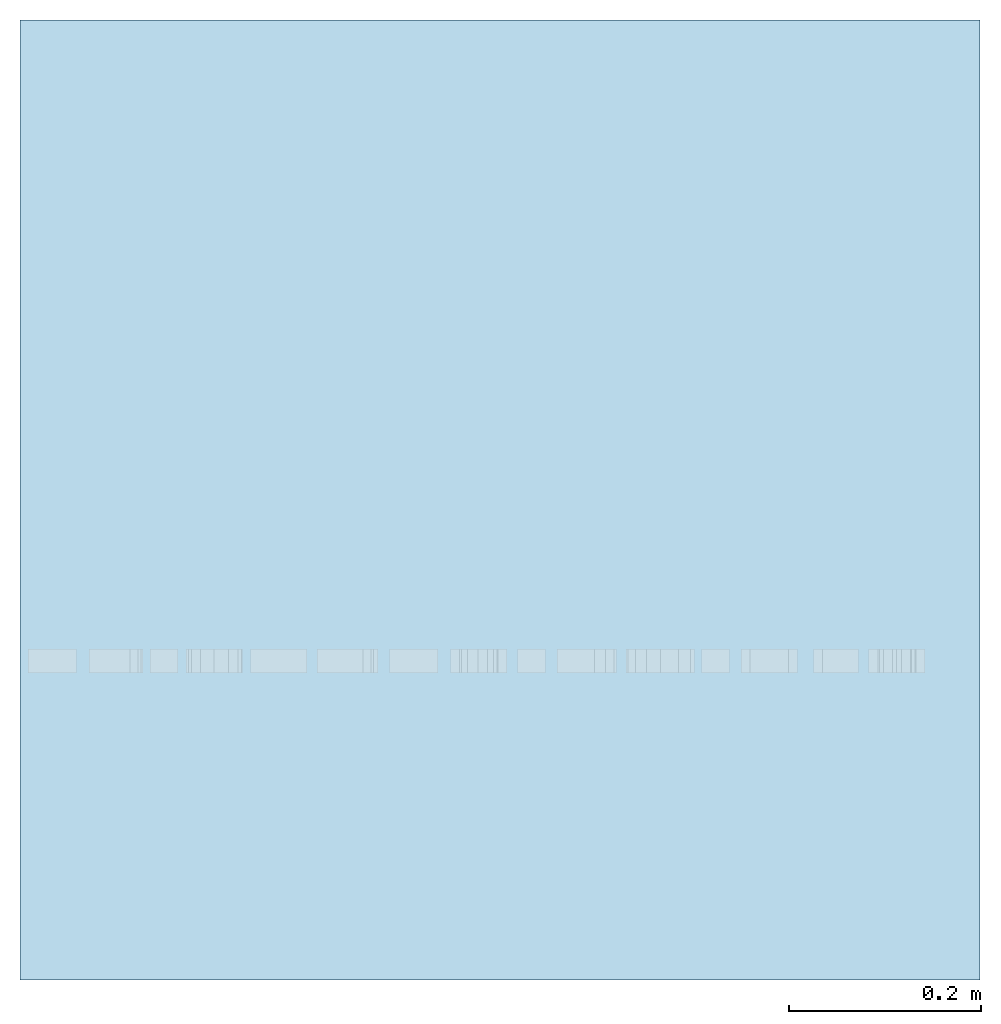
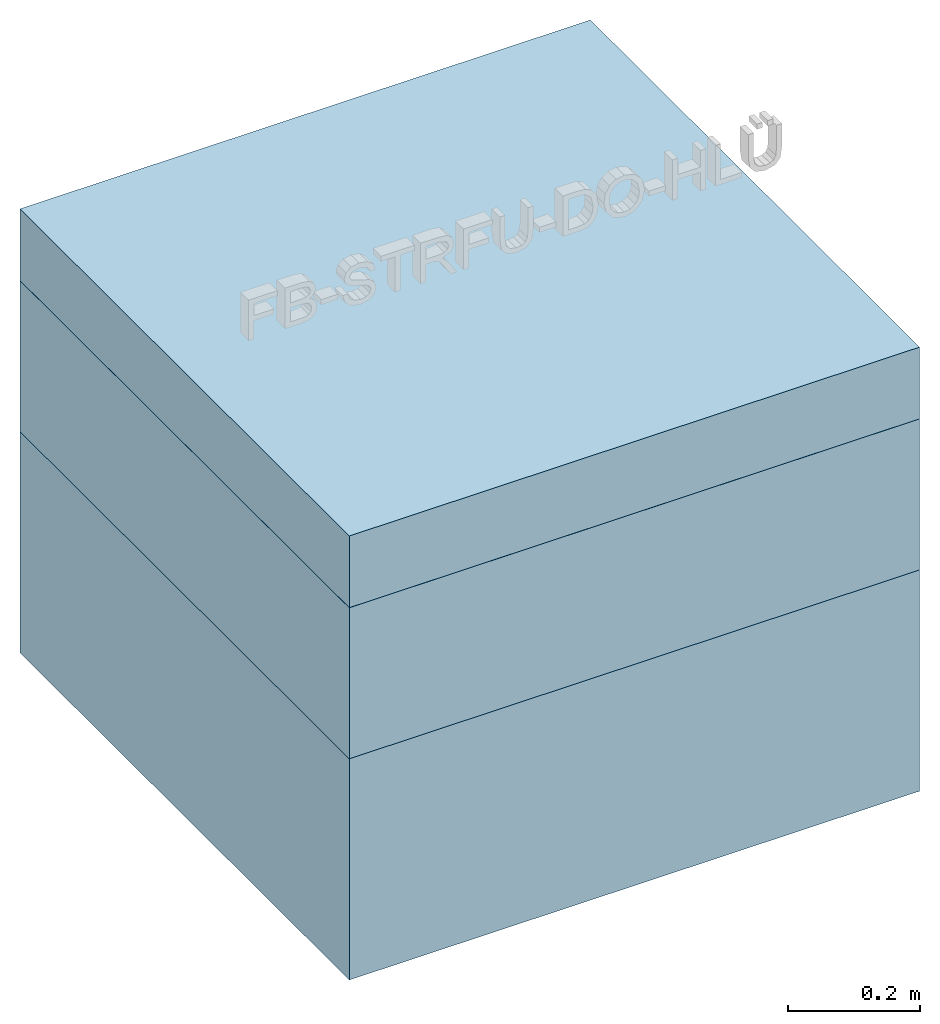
# Not in any storey, part 1 of 2: 3 slabs, 1 element without a shape of its own.
"""IFC4 model written with IfcOpenShell, lengths in metres."""

from ifc_helpers import new_model, entity, si_unit, converted_unit, derived_unit, direction, frame, origin, place, context, subcontext, project, spatial, indexed_curve, outline, extrude, material, constituent, constituent_set, type_object, element, aggregate, save


model = new_model("IFC4")

# Units and contexts
model_context = context("Model", 3, precision=1e-05, world=origin(), true_north=direction((6.123031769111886e-17, 1.0)))
body_context = subcontext(model_context, "Body", "Model", "MODEL_VIEW")
ifc_project = project(units=[si_unit("LENGTHUNIT", "METRE"), si_unit("AREAUNIT", "SQUARE_METRE"), si_unit("VOLUMEUNIT", "CUBIC_METRE"), converted_unit("PLANEANGLEUNIT", "DEGREE", entity("IfcRatioMeasure", 0.017453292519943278), si_unit("PLANEANGLEUNIT", "RADIAN"), dimensions=[0, 0, 0, 0, 0, 0, 0]), si_unit("MASSUNIT", "GRAM", prefix="KILO"), derived_unit("MASSDENSITYUNIT", [(si_unit("MASSUNIT", "GRAM", prefix="KILO"), 1), (si_unit("LENGTHUNIT", "METRE"), -3)]), derived_unit("IONCONCENTRATIONUNIT", [(si_unit("MASSUNIT", "GRAM", prefix="KILO"), 1), (si_unit("LENGTHUNIT", "METRE"), -3)]), derived_unit("MOMENTOFINERTIAUNIT", [(si_unit("LENGTHUNIT", "METRE"), 4)]), si_unit("TIMEUNIT", "SECOND"), si_unit("FREQUENCYUNIT", "HERTZ"), si_unit("THERMODYNAMICTEMPERATUREUNIT", "DEGREE_CELSIUS"), derived_unit("THERMALTRANSMITTANCEUNIT", [(si_unit("MASSUNIT", "GRAM", prefix="KILO"), 1), (si_unit("THERMODYNAMICTEMPERATUREUNIT", "KELVIN"), -1), (si_unit("TIMEUNIT", "SECOND"), -3)]), derived_unit("THERMALCONDUCTANCEUNIT", [(si_unit("MASSUNIT", "GRAM", prefix="KILO"), 1), (si_unit("THERMODYNAMICTEMPERATUREUNIT", "KELVIN"), -1), (si_unit("TIMEUNIT", "SECOND"), -3), (si_unit("LENGTHUNIT", "METRE"), 1)]), derived_unit("VOLUMETRICFLOWRATEUNIT", [(si_unit("LENGTHUNIT", "METRE"), 3), (si_unit("TIMEUNIT", "SECOND"), -1)]), derived_unit("MASSFLOWRATEUNIT", [(si_unit("MASSUNIT", "GRAM", prefix="KILO"), 1), (si_unit("TIMEUNIT", "SECOND"), -1)]), derived_unit("ROTATIONALFREQUENCYUNIT", [(si_unit("TIMEUNIT", "SECOND"), -1)]), si_unit("ELECTRICCURRENTUNIT", "AMPERE"), si_unit("ELECTRICVOLTAGEUNIT", "VOLT"), si_unit("POWERUNIT", "WATT"), si_unit("FORCEUNIT", "NEWTON", prefix="KILO"), si_unit("ILLUMINANCEUNIT", "LUX"), si_unit("LUMINOUSFLUXUNIT", "LUMEN"), si_unit("LUMINOUSINTENSITYUNIT", "CANDELA"), derived_unit("USERDEFINED", [(si_unit("MASSUNIT", "GRAM", prefix="KILO"), -1), (si_unit("LENGTHUNIT", "METRE"), -2), (si_unit("TIMEUNIT", "SECOND"), 3), (si_unit("LUMINOUSFLUXUNIT", "LUMEN"), 1)]), derived_unit("USERDEFINED", [(si_unit("MASSUNIT", "GRAM", prefix="KILO"), 1), (si_unit("TIMEUNIT", "SECOND"), -3), (si_unit("LENGTHUNIT", "METRE"), 3), (si_unit("ELECTRICCURRENTUNIT", "AMPERE"), -2)]), derived_unit("SOUNDPOWERUNIT", [(si_unit("MASSUNIT", "GRAM", prefix="KILO"), 1), (si_unit("TIMEUNIT", "SECOND"), -3), (si_unit("LENGTHUNIT", "METRE"), 2)]), derived_unit("SOUNDPRESSUREUNIT", [(si_unit("MASSUNIT", "GRAM", prefix="KILO"), 1), (si_unit("LENGTHUNIT", "METRE"), -1), (si_unit("TIMEUNIT", "SECOND"), -2)]), derived_unit("LINEARVELOCITYUNIT", [(si_unit("LENGTHUNIT", "METRE"), 1), (si_unit("TIMEUNIT", "SECOND"), -1)]), si_unit("PRESSUREUNIT", "PASCAL"), derived_unit("USERDEFINED", [(si_unit("MASSUNIT", "GRAM", prefix="KILO"), 1), (si_unit("LENGTHUNIT", "METRE"), -2), (si_unit("TIMEUNIT", "SECOND"), -2)]), derived_unit("LINEARFORCEUNIT", [(si_unit("MASSUNIT", "GRAM", prefix="KILO"), 1), (si_unit("TIMEUNIT", "SECOND"), -2)]), derived_unit("PLANARFORCEUNIT", [(si_unit("MASSUNIT", "GRAM", prefix="KILO"), 1), (si_unit("LENGTHUNIT", "METRE"), -1), (si_unit("TIMEUNIT", "SECOND"), -2)]), derived_unit("SPECIFICHEATCAPACITYUNIT", [(si_unit("THERMODYNAMICTEMPERATUREUNIT", "KELVIN"), -1), (si_unit("LENGTHUNIT", "METRE"), 2), (si_unit("TIMEUNIT", "SECOND"), -2)]), derived_unit("HEATINGVALUEUNIT", [(si_unit("LENGTHUNIT", "METRE"), 2), (si_unit("TIMEUNIT", "SECOND"), -2)]), derived_unit("VAPORPERMEABILITYUNIT", [(si_unit("LENGTHUNIT", "METRE"), -1), (si_unit("TIMEUNIT", "SECOND"), 1)]), derived_unit("DYNAMICVISCOSITYUNIT", [(si_unit("MASSUNIT", "GRAM", prefix="KILO"), 1), (si_unit("TIMEUNIT", "SECOND"), -1), (si_unit("LENGTHUNIT", "METRE"), -1)]), derived_unit("THERMALEXPANSIONCOEFFICIENTUNIT", [(si_unit("THERMODYNAMICTEMPERATUREUNIT", "KELVIN"), -1)]), derived_unit("MODULUSOFELASTICITYUNIT", [(si_unit("MASSUNIT", "GRAM", prefix="KILO"), 1), (si_unit("LENGTHUNIT", "METRE"), -1), (si_unit("TIMEUNIT", "SECOND"), -2)]), derived_unit("ISOTHERMALMOISTURECAPACITYUNIT", [(si_unit("LENGTHUNIT", "METRE"), 3), (si_unit("MASSUNIT", "GRAM", prefix="KILO"), -1)]), derived_unit("MOISTUREDIFFUSIVITYUNIT", [(si_unit("TIMEUNIT", "SECOND"), -1), (si_unit("LENGTHUNIT", "METRE"), 2)])], contexts=[model_context])

# Site
site_placement = place(None, origin())
site = spatial("IfcSite", under=ifc_project, at=site_placement, Name="Default", CompositionType="ELEMENT")

# Assembly, slabs
ifc_material_1 = material(Name="fbim_18108010_AT_015_Parkettboden")
ifc_constituent_1 = constituent(ifc_material_1, Name="fbim_18108010_AT_015_Parkettboden")
ifc_material_2 = material(Name="fbim_16053507_AT_Trockenestrich_gips", Category="Gipsputz")
ifc_constituent_2 = constituent(ifc_material_2, Name="fbim_16053507_AT_Trockenestrich_gips", Category="Gipsputz")
ifc_material_3 = material(Name="fbim_14104055_AT_040_HF-Trittschalldaemmplatte")
ifc_constituent_3 = constituent(ifc_material_3, Name="fbim_14104055_AT_040_HF-Trittschalldaemmplatte")
ifc_material_4 = material(Name="fbim_12401520_AT_OSB")
ifc_constituent_4 = constituent(ifc_material_4, Name="fbim_12401520_AT_OSB")
ifc_material_5 = material(Name="fbim_14100500_at_NTR_Zellulose-Einblasdaemmung")
ifc_constituent_5 = constituent(ifc_material_5, Name="fbim_14100500_at_NTR_Zellulose-Einblasdaemmung")
ifc_constituent_set_1 = constituent_set(constituents=[ifc_constituent_1, ifc_constituent_2, ifc_constituent_3, ifc_constituent_4, ifc_constituent_5], Name="Geschossdecke:fbimSg_Slab_sb_INS_vis_at_NTR_natuREbuilt_FBhZS_GK3_o_13,5cm")
assembly_placement = place(site_placement, origin())
assembly = element("IfcElementAssembly", 1, at=assembly_placement, inside=site, material=ifc_constituent_set_1, Name="Geschossdecken Baugruppe:fbimSg_Slab_bc_WOD_vis_at_NTR_natuREbuilt_FB-STRFU-DO-HLÜ_GK3_82cm", ObjectType="Geschossdecken Baugruppe:fbimSg_Slab_bc_WOD_vis_at_NTR_natuREbuilt_FB-STRFU-DO-HLÜ_GK3_82cm", AssemblyPlace="NOTDEFINED", PredefinedType="USERDEFINED")
slab_type_1 = type_object("IfcSlabType", Name="Geschossdecke:fbimSg_Slab_sb_INS_vis_at_NTR_natuREbuilt_FBhZS_GK3_o_13,5cm", PredefinedType="FLOOR", material=ifc_constituent_set_1)
slab_1_placement = place(assembly_placement, origin())
slab_1 = element("IfcSlab", 2, at=slab_1_placement, type_object=slab_type_1, Name="Geschossdecke:fbimSg_Slab_sb_INS_vis_at_NTR_natuREbuilt_FBhZS_GK3_o_13,5cm", ObjectType="Geschossdecke:fbimSg_Slab_sb_INS_vis_at_NTR_natuREbuilt_FBhZS_GK3_o_13,5cm", PredefinedType="FLOOR", context=body_context, shape_type="SweptSolid", body=[
    extrude(outline(indexed_curve([(-0.5, -0.49999999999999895), (0.5, -0.49999999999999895), (0.5, 0.49999999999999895), (-0.5, 0.49999999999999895), (-0.5, -0.49999999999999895)], self_intersect=False)), frame((5.911585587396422, 43.0146922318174, 1.9213129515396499), z_axis=(0.0, 0.0, 1.0), x_axis=(-1.0, 0.0, 0.0)), (0.0, 0.0, 1.0), 0.015000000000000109),
    extrude(outline(indexed_curve([(-0.5, -0.49999999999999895), (0.5, -0.49999999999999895), (0.5, 0.49999999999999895), (-0.5, 0.49999999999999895), (-0.5, -0.49999999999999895)], self_intersect=False)), frame((5.911585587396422, 43.0146922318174, 1.90131295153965), z_axis=(0.0, 0.0, 1.0), x_axis=(-1.0, 0.0, 0.0)), (0.0, 0.0, 1.0), 0.019999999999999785),
    extrude(outline(indexed_curve([(-0.5, -0.49999999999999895), (0.5, -0.49999999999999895), (0.5, 0.49999999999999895), (-0.5, 0.49999999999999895), (-0.5, -0.49999999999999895)], self_intersect=False)), frame((5.911585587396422, 43.0146922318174, 1.8813129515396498), z_axis=(0.0, 0.0, 1.0), x_axis=(-1.0, 0.0, 0.0)), (0.0, 0.0, 1.0), 0.020000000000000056),
    extrude(outline(indexed_curve([(-0.5, -0.49999999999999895), (0.5, -0.49999999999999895), (0.5, 0.49999999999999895), (-0.5, 0.49999999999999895), (-0.5, -0.49999999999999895)], self_intersect=False)), frame((5.911585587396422, 43.0146922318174, 1.86331295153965), z_axis=(0.0, 0.0, 1.0), x_axis=(-1.0, 0.0, 0.0)), (0.0, 0.0, 1.0), 0.017999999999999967),
    extrude(outline(indexed_curve([(-0.5, -0.49999999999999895), (0.5, -0.49999999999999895), (0.5, 0.49999999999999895), (-0.5, 0.49999999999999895), (-0.5, -0.49999999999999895)], self_intersect=False)), frame((5.911585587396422, 43.0146922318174, 1.8033129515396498), z_axis=(0.0, 0.0, 1.0), x_axis=(-1.0, 0.0, 0.0)), (0.0, 0.0, 1.0), 0.060000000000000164),
])
slab_type_2 = type_object("IfcSlabType", Name="Geschossdecke:fbimSg_Slab_sb_WOD_vis_at_NTR_natuREbuilt_FBhZS_GK3_k_28cm", PredefinedType="FLOOR", material=ifc_material_5)
slab_2_placement = place(assembly_placement, origin())
slab_2 = element("IfcSlab", 3, at=slab_2_placement, type_object=slab_type_2, material=ifc_material_5, Name="Geschossdecke:fbimSg_Slab_sb_WOD_vis_at_NTR_natuREbuilt_FBhZS_GK3_k_28cm", ObjectType="Geschossdecke:fbimSg_Slab_sb_WOD_vis_at_NTR_natuREbuilt_FBhZS_GK3_k_28cm", PredefinedType="FLOOR", context=body_context, shape_type="SweptSolid", body=[
    extrude(outline(indexed_curve([(-0.49999999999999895, -0.5), (0.49999999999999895, -0.5), (0.49999999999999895, 0.5), (-0.49999999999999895, 0.5), (-0.49999999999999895, -0.5)], self_intersect=False)), frame((5.91158558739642, 43.0146922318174, 1.8033129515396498), z_axis=(0.0, 0.0, -1.0), x_axis=(0.0, 1.0, 0.0)), (0.0, 0.0, 1.0), 0.27999999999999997),
])
ifc_material_6 = material(Name="fbim_12401505_at_NTR_Holz_Spanplatte_1cm")
ifc_constituent_6 = constituent(ifc_material_6, Name="fbim_12401505_at_NTR_Holz_Spanplatte_1cm")
ifc_material_7 = material(Name="fbim_14100590_AT_001_Luftschicht")
ifc_constituent_7 = constituent(ifc_material_7, Name="fbim_14100590_AT_001_Luftschicht")
ifc_constituent_set_2 = constituent_set(constituents=[ifc_constituent_6, ifc_constituent_7], Name="Geschossdecke:fbimSg_Floor_dp_AIR_vis_at_NTR_natuREbuilt_FBhZS_GK3_u_40cm")
slab_type_3 = type_object("IfcSlabType", Name="Geschossdecke:fbimSg_Floor_dp_AIR_vis_at_NTR_natuREbuilt_FBhZS_GK3_u_40cm", PredefinedType="FLOOR", material=ifc_constituent_set_2)
slab_3_placement = place(assembly_placement, origin())
slab_3 = element("IfcSlab", 4, at=slab_3_placement, type_object=slab_type_3, material=ifc_constituent_set_2, Name="Geschossdecke:fbimSg_Floor_dp_AIR_vis_at_NTR_natuREbuilt_FBhZS_GK3_u_40cm", ObjectType="Geschossdecke:fbimSg_Floor_dp_AIR_vis_at_NTR_natuREbuilt_FBhZS_GK3_u_40cm", PredefinedType="FLOOR", context=body_context, shape_type="SweptSolid", body=[
    extrude(outline(indexed_curve([(-0.5, -0.49999999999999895), (0.5, -0.49999999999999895), (0.5, 0.49999999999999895), (-0.5, 0.49999999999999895), (-0.5, -0.49999999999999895)], self_intersect=False)), frame((5.91158558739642, 43.0146922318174, 1.5133129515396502), z_axis=(0.0, 0.0, 1.0), x_axis=(-1.0, 0.0, 0.0)), (0.0, 0.0, 1.0), 0.009999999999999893),
    extrude(outline(indexed_curve([(-0.5, -0.49999999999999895), (0.5, -0.49999999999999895), (0.5, 0.49999999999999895), (-0.5, 0.49999999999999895), (-0.5, -0.49999999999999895)], self_intersect=False)), frame((5.91158558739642, 43.0146922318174, 1.11331295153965), z_axis=(0.0, 0.0, 1.0), x_axis=(-1.0, 0.0, 0.0)), (0.0, 0.0, 1.0), 0.4000000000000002),
])
aggregate(assembly, [slab_1, slab_2, slab_3])

save(model, "model.ifc")
